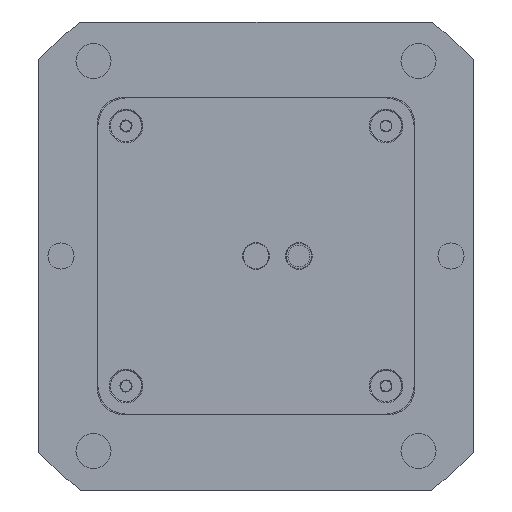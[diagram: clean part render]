
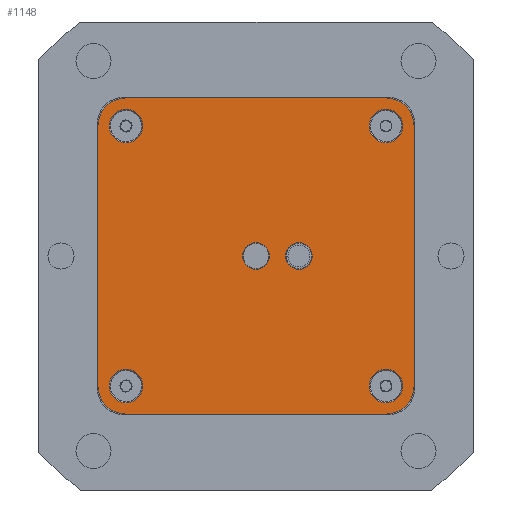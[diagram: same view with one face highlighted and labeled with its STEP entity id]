
A CAD part, front view. The second image highlights one B-rep face of the part: STEP entity #1148.
In plain terms, the highlighted planar face has unit normal (0, -1, 0).
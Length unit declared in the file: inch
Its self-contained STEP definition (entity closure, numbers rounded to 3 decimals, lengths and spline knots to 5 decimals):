
#80 = AXIS2_PLACEMENT_3D ( 'NONE', #162, #10950, #2103 ) ;
#126 = DIRECTION ( 'NONE',  ( 0., 1., 0. ) ) ;
#162 = CARTESIAN_POINT ( 'NONE',  ( 0., 0., 0. ) ) ;
#445 = VECTOR ( 'NONE', #5365, 39.37008 ) ;
#552 = EDGE_CURVE ( 'NONE', #1929, #3919, #5571, .T. ) ;
#613 = EDGE_LOOP ( 'NONE', ( #4163 ) ) ;
#672 = EDGE_CURVE ( 'NONE', #8825, #8825, #4924, .T. ) ;
#826 = FACE_BOUND ( 'NONE', #7019, .T. ) ;
#968 = DIRECTION ( 'NONE',  ( 0., -1., 0. ) ) ;
#980 = CARTESIAN_POINT ( 'NONE',  ( -1.9725, 0., 2.3925 ) ) ;
#1148 = ADVANCED_FACE ( 'NONE', ( #6749, #11612, #826, #11546, #1790, #5737, #3371 ), #10495, .T. ) ;
#1157 = DIRECTION ( 'NONE',  ( 1., 0., 0. ) ) ;
#1205 = AXIS2_PLACEMENT_3D ( 'NONE', #7344, #4708, #12274 ) ;
#1330 = VECTOR ( 'NONE', #10097, 39.37008 ) ;
#1504 = EDGE_CURVE ( 'NONE', #5225, #5225, #6924, .T. ) ;
#1609 = AXIS2_PLACEMENT_3D ( 'NONE', #2206, #6275, #10012 ) ;
#1612 = EDGE_CURVE ( 'NONE', #6646, #4653, #2182, .T. ) ;
#1615 = VERTEX_POINT ( 'NONE', #12445 ) ;
#1684 = DIRECTION ( 'NONE',  ( 0., -1., 0. ) ) ;
#1757 = ORIENTED_EDGE ( 'NONE', *, *, #5345, .F. ) ;
#1790 = FACE_BOUND ( 'NONE', #11307, .T. ) ;
#1814 = ORIENTED_EDGE ( 'NONE', *, *, #672, .F. ) ;
#1929 = VERTEX_POINT ( 'NONE', #7259 ) ;
#2103 = DIRECTION ( 'NONE',  ( 0., 0., -1. ) ) ;
#2148 = AXIS2_PLACEMENT_3D ( 'NONE', #7150, #11099, #11179 ) ;
#2173 = AXIS2_PLACEMENT_3D ( 'NONE', #5467, #2751, #4577 ) ;
#2182 = CIRCLE ( 'NONE', #2173, 0.42 ) ;
#2206 = CARTESIAN_POINT ( 'NONE',  ( -1.9725, 0., 1.9725 ) ) ;
#2410 = LINE ( 'NONE', #5269, #11937 ) ;
#2436 = AXIS2_PLACEMENT_3D ( 'NONE', #5889, #126, #7987 ) ;
#2604 = CARTESIAN_POINT ( 'NONE',  ( 1.9725, 0., -1.9725 ) ) ;
#2643 = DIRECTION ( 'NONE',  ( 0., 0., -1. ) ) ;
#2751 = DIRECTION ( 'NONE',  ( 0., 1., 0. ) ) ;
#2787 = CIRCLE ( 'NONE', #2148, 0.20033 ) ;
#2788 = ORIENTED_EDGE ( 'NONE', *, *, #8589, .F. ) ;
#2881 = ORIENTED_EDGE ( 'NONE', *, *, #552, .F. ) ;
#2884 = CIRCLE ( 'NONE', #10073, 0.255 ) ;
#3371 = FACE_OUTER_BOUND ( 'NONE', #8344, .T. ) ;
#3408 = EDGE_CURVE ( 'NONE', #6543, #6543, #5033, .T. ) ;
#3538 = CARTESIAN_POINT ( 'NONE',  ( 1.9685, 0., -1.9685 ) ) ;
#3750 = CARTESIAN_POINT ( 'NONE',  ( 1.9725, 0., -2.3925 ) ) ;
#3805 = VERTEX_POINT ( 'NONE', #5505 ) ;
#3809 = CARTESIAN_POINT ( 'NONE',  ( 0.65, 0., -0.20033 ) ) ;
#3842 = LINE ( 'NONE', #9990, #10887 ) ;
#3877 = VERTEX_POINT ( 'NONE', #3809 ) ;
#3919 = VERTEX_POINT ( 'NONE', #980 ) ;
#4163 = ORIENTED_EDGE ( 'NONE', *, *, #3408, .F. ) ;
#4321 = EDGE_CURVE ( 'NONE', #11539, #11539, #2884, .T. ) ;
#4499 = VERTEX_POINT ( 'NONE', #5462 ) ;
#4577 = DIRECTION ( 'NONE',  ( 0., 0., 1. ) ) ;
#4634 = DIRECTION ( 'NONE',  ( 0., 0., -1. ) ) ;
#4645 = CARTESIAN_POINT ( 'NONE',  ( 2.3925, 0., 1.9725 ) ) ;
#4653 = VERTEX_POINT ( 'NONE', #4645 ) ;
#4708 = DIRECTION ( 'NONE',  ( 0., -1., 0. ) ) ;
#4727 = VERTEX_POINT ( 'NONE', #3750 ) ;
#4869 = EDGE_CURVE ( 'NONE', #4727, #3805, #9062, .T. ) ;
#4924 = CIRCLE ( 'NONE', #12134, 0.255 ) ;
#5033 = CIRCLE ( 'NONE', #80, 0.20033 ) ;
#5225 = VERTEX_POINT ( 'NONE', #9139 ) ;
#5269 = CARTESIAN_POINT ( 'NONE',  ( -2.3925, 0., 1.9725 ) ) ;
#5345 = EDGE_CURVE ( 'NONE', #3877, #3877, #2787, .T. ) ;
#5365 = DIRECTION ( 'NONE',  ( 0., 0., -1. ) ) ;
#5462 = CARTESIAN_POINT ( 'NONE',  ( -1.9685, 0., 1.7135 ) ) ;
#5467 = CARTESIAN_POINT ( 'NONE',  ( 1.9725, 0., 1.9725 ) ) ;
#5505 = CARTESIAN_POINT ( 'NONE',  ( -1.9725, 0., -2.3925 ) ) ;
#5571 = CIRCLE ( 'NONE', #1609, 0.42 ) ;
#5737 = FACE_BOUND ( 'NONE', #9151, .T. ) ;
#5846 = ORIENTED_EDGE ( 'NONE', *, *, #4321, .F. ) ;
#5889 = CARTESIAN_POINT ( 'NONE',  ( -1.9725, 0., -1.9725 ) ) ;
#6275 = DIRECTION ( 'NONE',  ( 0., 1., 0. ) ) ;
#6326 = EDGE_CURVE ( 'NONE', #1615, #4727, #7732, .T. ) ;
#6426 = CARTESIAN_POINT ( 'NONE',  ( -1.9685, 0., -2.2235 ) ) ;
#6543 = VERTEX_POINT ( 'NONE', #8305 ) ;
#6589 = CARTESIAN_POINT ( 'NONE',  ( 1.9685, 0., 1.9685 ) ) ;
#6610 = ORIENTED_EDGE ( 'NONE', *, *, #6326, .F. ) ;
#6646 = VERTEX_POINT ( 'NONE', #11250 ) ;
#6749 = FACE_BOUND ( 'NONE', #613, .T. ) ;
#6880 = ORIENTED_EDGE ( 'NONE', *, *, #11782, .F. ) ;
#6924 = CIRCLE ( 'NONE', #10840, 0.255 ) ;
#7019 = EDGE_LOOP ( 'NONE', ( #7190 ) ) ;
#7111 = DIRECTION ( 'NONE',  ( 0., 0., 1. ) ) ;
#7150 = CARTESIAN_POINT ( 'NONE',  ( 0.65, 0., 0. ) ) ;
#7155 = EDGE_LOOP ( 'NONE', ( #1757 ) ) ;
#7190 = ORIENTED_EDGE ( 'NONE', *, *, #9263, .F. ) ;
#7259 = CARTESIAN_POINT ( 'NONE',  ( -2.3925, 0., 1.9725 ) ) ;
#7307 = CARTESIAN_POINT ( 'NONE',  ( -2.3925, 0., -1.9725 ) ) ;
#7344 = CARTESIAN_POINT ( 'NONE',  ( -1.9725, 0., 1.9725 ) ) ;
#7347 = CARTESIAN_POINT ( 'NONE',  ( -1.9685, 0., 1.9685 ) ) ;
#7537 = EDGE_LOOP ( 'NONE', ( #1814 ) ) ;
#7732 = CIRCLE ( 'NONE', #9384, 0.42 ) ;
#7790 = CIRCLE ( 'NONE', #2436, 0.42 ) ;
#7987 = DIRECTION ( 'NONE',  ( 0., 0., -1. ) ) ;
#8115 = CARTESIAN_POINT ( 'NONE',  ( 2.3925, 0., 1.9725 ) ) ;
#8305 = CARTESIAN_POINT ( 'NONE',  ( 0., 0., -0.20033 ) ) ;
#8344 = EDGE_LOOP ( 'NONE', ( #2881, #2788, #10729, #11861, #6610, #8928, #10658, #6880 ) ) ;
#8589 = EDGE_CURVE ( 'NONE', #11633, #1929, #2410, .T. ) ;
#8598 = DIRECTION ( 'NONE',  ( 0., 0., -1. ) ) ;
#8604 = DIRECTION ( 'NONE',  ( 0., -1., 0. ) ) ;
#8633 = CARTESIAN_POINT ( 'NONE',  ( -1.9685, 0., -1.9685 ) ) ;
#8825 = VERTEX_POINT ( 'NONE', #12717 ) ;
#8919 = ORIENTED_EDGE ( 'NONE', *, *, #1504, .F. ) ;
#8928 = ORIENTED_EDGE ( 'NONE', *, *, #10880, .F. ) ;
#9062 = LINE ( 'NONE', #12050, #1330 ) ;
#9139 = CARTESIAN_POINT ( 'NONE',  ( 1.9685, 0., -2.2235 ) ) ;
#9151 = EDGE_LOOP ( 'NONE', ( #5846 ) ) ;
#9263 = EDGE_CURVE ( 'NONE', #4499, #4499, #11351, .T. ) ;
#9309 = DIRECTION ( 'NONE',  ( 0., 0., -1. ) ) ;
#9384 = AXIS2_PLACEMENT_3D ( 'NONE', #2604, #12623, #8598 ) ;
#9990 = CARTESIAN_POINT ( 'NONE',  ( -1.9725, 0., 2.3925 ) ) ;
#10012 = DIRECTION ( 'NONE',  ( 0., 0., -1. ) ) ;
#10073 = AXIS2_PLACEMENT_3D ( 'NONE', #8633, #968, #11685 ) ;
#10097 = DIRECTION ( 'NONE',  ( -1., 0., 0. ) ) ;
#10495 = PLANE ( 'NONE',  #1205 ) ;
#10658 = ORIENTED_EDGE ( 'NONE', *, *, #1612, .F. ) ;
#10729 = ORIENTED_EDGE ( 'NONE', *, *, #11751, .F. ) ;
#10840 = AXIS2_PLACEMENT_3D ( 'NONE', #3538, #8604, #4634 ) ;
#10880 = EDGE_CURVE ( 'NONE', #4653, #1615, #11170, .T. ) ;
#10887 = VECTOR ( 'NONE', #1157, 39.37008 ) ;
#10950 = DIRECTION ( 'NONE',  ( 0., -1., 0. ) ) ;
#11099 = DIRECTION ( 'NONE',  ( 0., -1., 0. ) ) ;
#11170 = LINE ( 'NONE', #8115, #445 ) ;
#11179 = DIRECTION ( 'NONE',  ( 0., 0., -1. ) ) ;
#11250 = CARTESIAN_POINT ( 'NONE',  ( 1.9725, 0., 2.3925 ) ) ;
#11307 = EDGE_LOOP ( 'NONE', ( #8919 ) ) ;
#11351 = CIRCLE ( 'NONE', #11968, 0.255 ) ;
#11539 = VERTEX_POINT ( 'NONE', #6426 ) ;
#11546 = FACE_BOUND ( 'NONE', #7537, .T. ) ;
#11612 = FACE_BOUND ( 'NONE', #7155, .T. ) ;
#11633 = VERTEX_POINT ( 'NONE', #7307 ) ;
#11685 = DIRECTION ( 'NONE',  ( 0., 0., -1. ) ) ;
#11751 = EDGE_CURVE ( 'NONE', #3805, #11633, #7790, .T. ) ;
#11782 = EDGE_CURVE ( 'NONE', #3919, #6646, #3842, .T. ) ;
#11861 = ORIENTED_EDGE ( 'NONE', *, *, #4869, .F. ) ;
#11937 = VECTOR ( 'NONE', #7111, 39.37008 ) ;
#11968 = AXIS2_PLACEMENT_3D ( 'NONE', #7347, #1684, #2643 ) ;
#12050 = CARTESIAN_POINT ( 'NONE',  ( -1.9725, 0., -2.3925 ) ) ;
#12134 = AXIS2_PLACEMENT_3D ( 'NONE', #6589, #12426, #9309 ) ;
#12274 = DIRECTION ( 'NONE',  ( 0., 0., -1. ) ) ;
#12426 = DIRECTION ( 'NONE',  ( 0., -1., 0. ) ) ;
#12445 = CARTESIAN_POINT ( 'NONE',  ( 2.3925, 0., -1.9725 ) ) ;
#12623 = DIRECTION ( 'NONE',  ( 0., 1., 0. ) ) ;
#12717 = CARTESIAN_POINT ( 'NONE',  ( 1.9685, 0., 1.7135 ) ) ;
